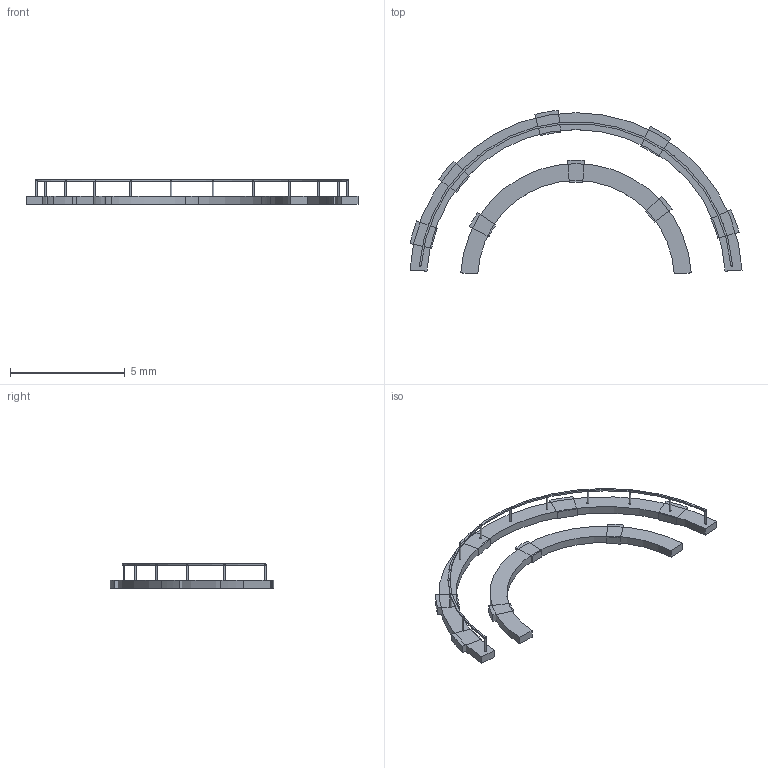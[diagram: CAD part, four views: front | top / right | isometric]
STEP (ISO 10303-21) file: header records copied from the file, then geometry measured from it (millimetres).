
FILE_DESCRIPTION(('ORION SD-AMF-R3 Modulnyy amfiteatr «Radius Grand» | OOO ORION | zavod-orion.ru | sales@zavod-orion.ru | tel +7 __________'),'2;1');
FILE_NAME('AutoCAD Shape Model','2026-08-08T22:26:57',('Author'),( 'AutoCAD'),'AutoCAD STEP processor 7.9','AutoCAD 7.9' ,'Unknown');
FILE_SCHEMA(('AUTOMOTIVE_DESIGN { 1 0 10303 214 1 1 1 1 }'));
Length unit declared in the file: millimetre
Products named in the file (24): ORION SD-AMF-R3 Modulnyy amfiteatr «Radius Grand»
Assembly tree (23 placements, depth 2):
  ORION SD-AMF-R3 Modulnyy amfiteatr «Radius Grand»
    ORION SD-AMF-R3 Modulnyy amfiteatr «Radius Grand»
    ORION SD-AMF-R3 Modulnyy amfiteatr «Radius Grand»
    ORION SD-AMF-R3 Modulnyy amfiteatr «Radius Grand»
    ORION SD-AMF-R3 Modulnyy amfiteatr «Radius Grand»
    ORION SD-AMF-R3 Modulnyy amfiteatr «Radius Grand»
    ORION SD-AMF-R3 Modulnyy amfiteatr «Radius Grand»
    ORION SD-AMF-R3 Modulnyy amfiteatr «Radius Grand»
    ORION SD-AMF-R3 Modulnyy amfiteatr «Radius Grand»
    ORION SD-AMF-R3 Modulnyy amfiteatr «Radius Grand»
    ORION SD-AMF-R3 Modulnyy amfiteatr «Radius Grand»
    ORION SD-AMF-R3 Modulnyy amfiteatr «Radius Grand»
    ORION SD-AMF-R3 Modulnyy amfiteatr «Radius Grand»
    ORION SD-AMF-R3 Modulnyy amfiteatr «Radius Grand»
    ORION SD-AMF-R3 Modulnyy amfiteatr «Radius Grand»
    ORION SD-AMF-R3 Modulnyy amfiteatr «Radius Grand»
    ORION SD-AMF-R3 Modulnyy amfiteatr «Radius Grand»
    ORION SD-AMF-R3 Modulnyy amfiteatr «Radius Grand»
    ORION SD-AMF-R3 Modulnyy amfiteatr «Radius Grand»
    ORION SD-AMF-R3 Modulnyy amfiteatr «Radius Grand»
    ORION SD-AMF-R3 Modulnyy amfiteatr «Radius Grand»
    ORION SD-AMF-R3 Modulnyy amfiteatr «Radius Grand»
    ORION SD-AMF-R3 Modulnyy amfiteatr «Radius Grand»
    ORION SD-AMF-R3 Modulnyy amfiteatr «Radius Grand»
Bounding box: 14.48 x 7.13 x 1.07 mm (x, y, z)
Volume: 11.5 mm3; surface area: 109 mm2
Topology: 23 solids, 23 shells, 102 faces, 168 edges, 112 vertices
Faces by surface type: plane 68, cylinder 34
Full cylindrical faces by diameter (mm): 0.08 x12
Entity records: 4944 total; most frequent: DIRECTION 824, CARTESIAN_POINT 742, LINE 368, VECTOR 368, ORIENTED_EDGE 336, PCURVE 336, DEFINITIONAL_REPRESENTATION 336, AXIS2_PLACEMENT_3D 194
